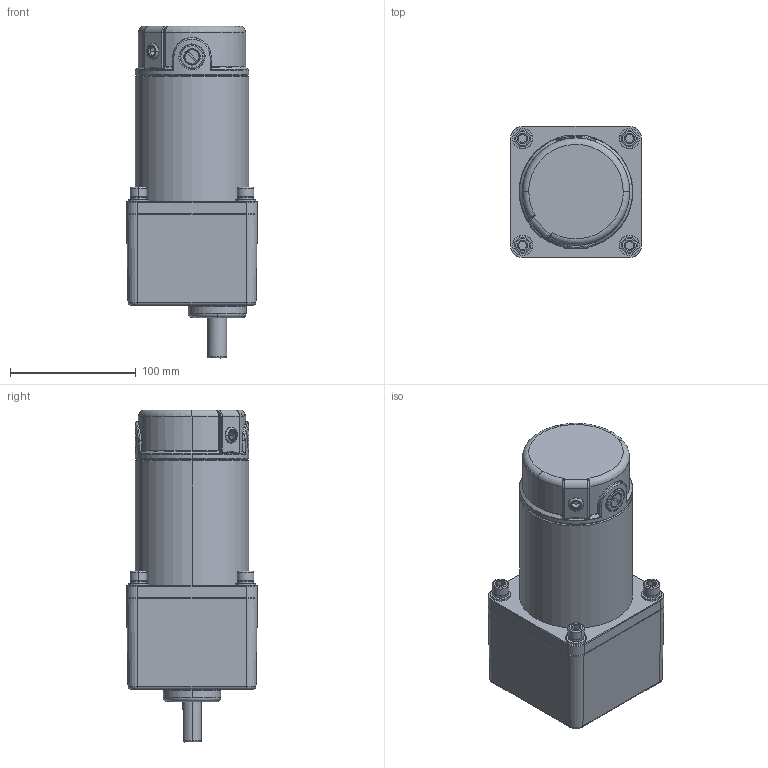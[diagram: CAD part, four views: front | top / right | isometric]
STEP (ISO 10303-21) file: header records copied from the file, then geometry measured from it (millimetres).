
FILE_DESCRIPTION (( 'STEP AP203' ), '1' );
FILE_NAME ('100饜6GU喘謫眊-100儂褲.STEP', '2021-07-12T07:51:05', ( '' ), ( '' ), 'SwSTEP 2.0', 'SolidWorks 2021', '' );
FILE_SCHEMA (( 'CONFIG_CONTROL_DESIGN' ));
Length unit declared in the file: millimetre
Products named in the file (10): TAN-M8; TAN; JK; H; 100; LUO; LUO-M8; 100饜6GU喘謫眊-100儂褲; PRT0001_1; PING-M8
Assembly tree (20 placements, depth 2):
  100饜6GU喘謫眊-100儂褲
    LUO-M8  x4
    H
    TAN-M8  x4
    PING-M8  x4
    LUO  x2
    TAN  x2
    JK
    PRT0001_1
    100
Bounding box: 104 x 104 x 263.5 mm (x, y, z)
Volume: 1020664.9 mm3; surface area: 192504.3 mm2
Topology: 23 solids, 23 shells, 684 faces, 1595 edges, 985 vertices
Faces by surface type: cylinder 218, cone 193, plane 169, bspline 53, torus 47, sphere 4
Entity records: 23124 total; most frequent: CARTESIAN_POINT 11528, ORIENTED_EDGE 2168, DIRECTION 2071, EDGE_CURVE 1084, AXIS2_PLACEMENT_3D 849, VERTEX_POINT 674, EDGE_LOOP 522, ADVANCED_FACE 461
